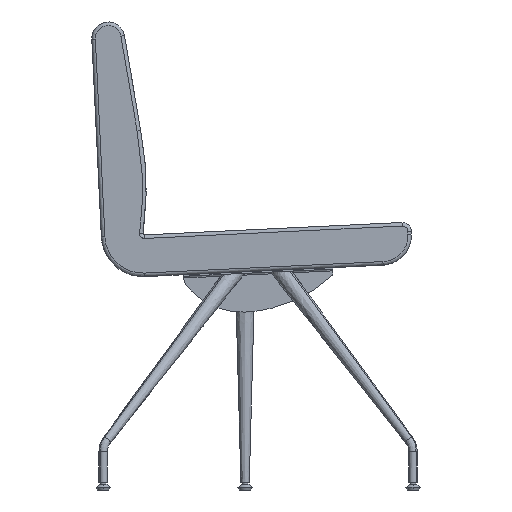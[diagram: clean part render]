
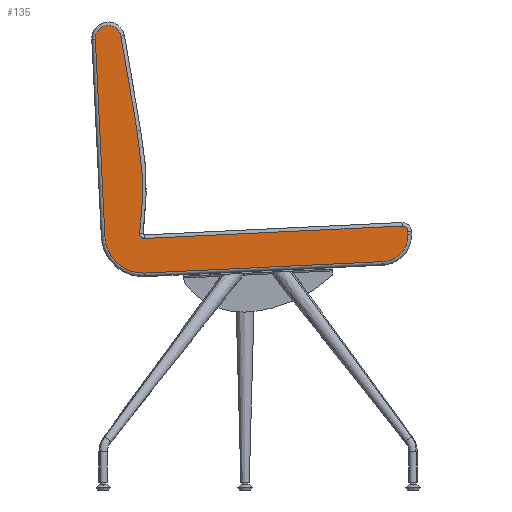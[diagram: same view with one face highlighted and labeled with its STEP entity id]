
A CAD part, left-side view. The second image highlights one B-rep face of the part: STEP entity #135.
In plain terms, the highlighted planar face has unit normal (-1, 0, 0).
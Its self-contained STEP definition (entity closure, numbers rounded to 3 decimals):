
#135=ADVANCED_FACE('',(#415),#3673,.T.);
#415=FACE_OUTER_BOUND('',#697,.T.);
#697=EDGE_LOOP('',(#1191,#1192,#1193,#1194,#1195,#1196,#1197,#1198,#1199,
#1200,#1201));
#1191=ORIENTED_EDGE('',*,*,#2300,.F.);
#1192=ORIENTED_EDGE('',*,*,#2294,.F.);
#1193=ORIENTED_EDGE('',*,*,#2267,.F.);
#1194=ORIENTED_EDGE('',*,*,#2286,.F.);
#1195=ORIENTED_EDGE('',*,*,#2283,.F.);
#1196=ORIENTED_EDGE('',*,*,#2277,.F.);
#1197=ORIENTED_EDGE('',*,*,#2273,.F.);
#1198=ORIENTED_EDGE('',*,*,#2266,.F.);
#1199=ORIENTED_EDGE('',*,*,#2312,.F.);
#1200=ORIENTED_EDGE('',*,*,#2268,.F.);
#1201=ORIENTED_EDGE('',*,*,#2304,.F.);
#2266=EDGE_CURVE('',#3395,#3396,#3952,.T.);
#2267=EDGE_CURVE('',#3390,#3394,#3953,.T.);
#2268=EDGE_CURVE('',#3388,#3397,#3954,.T.);
#2273=EDGE_CURVE('',#3396,#3392,#2883,.T.);
#2277=EDGE_CURVE('',#3392,#3393,#2887,.T.);
#2283=EDGE_CURVE('',#3393,#3389,#2893,.T.);
#2286=EDGE_CURVE('',#3389,#3390,#2896,.T.);
#2294=EDGE_CURVE('',#3394,#3391,#2904,.T.);
#2300=EDGE_CURVE('',#3391,#3387,#2910,.T.);
#2304=EDGE_CURVE('',#3387,#3388,#2914,.T.);
#2312=EDGE_CURVE('',#3397,#3395,#2922,.T.);
#2883=(
BOUNDED_CURVE()
B_SPLINE_CURVE(3,(#6039,#6040,#6041,#6042,#6043,#6044,#6045,#6046,#6047,
#6048,#6049),.UNSPECIFIED.,.F.,.F.)
B_SPLINE_CURVE_WITH_KNOTS((4,1,1,1,1,1,1,1,4),(0.,8.154,
16.307,24.461,32.615,40.769,48.922,
57.076,65.23),.UNSPECIFIED.)
CURVE()
GEOMETRIC_REPRESENTATION_ITEM()
RATIONAL_B_SPLINE_CURVE((1.,1.,1.,1.,1.,1.,1.,1.,
1.,1.,1.))
REPRESENTATION_ITEM('')
);
#2887=(
BOUNDED_CURVE()
B_SPLINE_CURVE(1,(#6066,#6067),.UNSPECIFIED.,.F.,.F.)
B_SPLINE_CURVE_WITH_KNOTS((2,2),(0.,161.419),
 .UNSPECIFIED.)
CURVE()
GEOMETRIC_REPRESENTATION_ITEM()
RATIONAL_B_SPLINE_CURVE((1.,1.))
REPRESENTATION_ITEM('')
);
#2893=(
BOUNDED_CURVE()
B_SPLINE_CURVE(3,(#6081,#6082,#6083,#6084,#6085,#6086,#6087,#6088,#6089),
 .UNSPECIFIED.,.F.,.F.)
B_SPLINE_CURVE_WITH_KNOTS((4,1,1,1,1,1,4),(0.,16.374,
32.749,50.88,69.011,120.524,172.037),
 .UNSPECIFIED.)
CURVE()
GEOMETRIC_REPRESENTATION_ITEM()
RATIONAL_B_SPLINE_CURVE((1.,1.,1.,1.,1.,1.,
1.,1.,1.))
REPRESENTATION_ITEM('')
);
#2896=(
BOUNDED_CURVE()
B_SPLINE_CURVE(3,(#6102,#6103,#6104,#6105,#6106),.UNSPECIFIED.,.F.,.F.)
B_SPLINE_CURVE_WITH_KNOTS((4,1,4),(0.,6.935,
13.869),.UNSPECIFIED.)
CURVE()
GEOMETRIC_REPRESENTATION_ITEM()
RATIONAL_B_SPLINE_CURVE((1.,1.,1.,1.,1.))
REPRESENTATION_ITEM('')
);
#2904=(
BOUNDED_CURVE()
B_SPLINE_CURVE(3,(#6128,#6129,#6130,#6131,#6132),.UNSPECIFIED.,.F.,.F.)
B_SPLINE_CURVE_WITH_KNOTS((4,1,4),(0.,7.068,
14.137),.UNSPECIFIED.)
CURVE()
GEOMETRIC_REPRESENTATION_ITEM()
RATIONAL_B_SPLINE_CURVE((1.,1.,1.,1.,1.))
REPRESENTATION_ITEM('')
);
#2910=(
BOUNDED_CURVE()
B_SPLINE_CURVE(1,(#6149,#6150),.UNSPECIFIED.,.F.,.F.)
B_SPLINE_CURVE_WITH_KNOTS((2,2),(0.,5.),
 .UNSPECIFIED.)
CURVE()
GEOMETRIC_REPRESENTATION_ITEM()
RATIONAL_B_SPLINE_CURVE((1.,1.))
REPRESENTATION_ITEM('')
);
#2914=(
BOUNDED_CURVE()
B_SPLINE_CURVE(3,(#6158,#6159,#6160,#6161,#6162,#6163,#6164),
 .UNSPECIFIED.,.F.,.F.)
B_SPLINE_CURVE_WITH_KNOTS((4,1,1,1,4),(0.,16.586,
34.557,52.527,69.113),.UNSPECIFIED.)
CURVE()
GEOMETRIC_REPRESENTATION_ITEM()
RATIONAL_B_SPLINE_CURVE((1.,1.,1.,1.,1.,1.,1.))
REPRESENTATION_ITEM('')
);
#2922=(
BOUNDED_CURVE()
B_SPLINE_CURVE(3,(#6188,#6189,#6190,#6191,#6192,#6193,#6194),
 .UNSPECIFIED.,.F.,.F.)
B_SPLINE_CURVE_WITH_KNOTS((4,1,1,1,4),(0.,24.125,50.264,
76.404,100.528),.UNSPECIFIED.)
CURVE()
GEOMETRIC_REPRESENTATION_ITEM()
RATIONAL_B_SPLINE_CURVE((1.,1.,1.,1.,1.,1.,1.))
REPRESENTATION_ITEM('')
);
#3387=VERTEX_POINT('',#5920);
#3388=VERTEX_POINT('',#5921);
#3389=VERTEX_POINT('',#5922);
#3390=VERTEX_POINT('',#5923);
#3391=VERTEX_POINT('',#5924);
#3392=VERTEX_POINT('',#5925);
#3393=VERTEX_POINT('',#5926);
#3394=VERTEX_POINT('',#5927);
#3395=VERTEX_POINT('',#5928);
#3396=VERTEX_POINT('',#5929);
#3397=VERTEX_POINT('',#5930);
#3673=PLANE('',#4122);
#3952=B_SPLINE_CURVE_WITH_KNOTS('',1,(#6024,#6025),.UNSPECIFIED.,.F.,.F.,
(2,2),(0.,332.138),.UNSPECIFIED.);
#3953=B_SPLINE_CURVE_WITH_KNOTS('',1,(#6026,#6027),.UNSPECIFIED.,.F.,.F.,
(2,2),(0.,432.642),.UNSPECIFIED.);
#3954=B_SPLINE_CURVE_WITH_KNOTS('',1,(#6028,#6029),.UNSPECIFIED.,.F.,.F.,
(2,2),(0.,400.),.UNSPECIFIED.);
#4122=AXIS2_PLACEMENT_3D('',#5572,#4169,$);
#4169=DIRECTION('',(-1.,0.,0.));
#5572=CARTESIAN_POINT('',(-1020.,347.841,834.398));
#5920=CARTESIAN_POINT('',(-1020.,-251.306,429.248));
#5921=CARTESIAN_POINT('',(-1020.,-209.47,383.186));
#5922=CARTESIAN_POINT('',(-1020.,198.83,430.931));
#5923=CARTESIAN_POINT('',(-1020.,190.499,422.024));
#5924=CARTESIAN_POINT('',(-1020.,-251.066,434.242));
#5925=CARTESIAN_POINT('',(-1020.,230.153,761.269));
#5926=CARTESIAN_POINT('',(-1020.,202.898,602.168));
#5927=CARTESIAN_POINT('',(-1020.,-241.644,442.8));
#5928=CARTESIAN_POINT('',(-1020.,257.068,424.83));
#5929=CARTESIAN_POINT('',(-1020.,273.018,756.585));
#5930=CARTESIAN_POINT('',(-1020.,190.069,363.977));
#6024=CARTESIAN_POINT('',(-1020.,257.068,424.83));
#6025=CARTESIAN_POINT('',(-1020.,273.018,756.585));
#6026=CARTESIAN_POINT('',(-1020.,190.499,422.024));
#6027=CARTESIAN_POINT('',(-1020.,-241.644,442.8));
#6028=CARTESIAN_POINT('',(-1020.,-209.47,383.186));
#6029=CARTESIAN_POINT('',(-1020.,190.069,363.977));
#6039=CARTESIAN_POINT('',(-1020.,273.018,756.585));
#6040=CARTESIAN_POINT('',(-1020.,273.15,759.299));
#6041=CARTESIAN_POINT('',(-1020.,272.373,764.778));
#6042=CARTESIAN_POINT('',(-1020.,268.262,771.989));
#6043=CARTESIAN_POINT('',(-1020.,261.782,777.177));
#6044=CARTESIAN_POINT('',(-1020.,253.846,779.611));
#6045=CARTESIAN_POINT('',(-1020.,245.572,778.948));
#6046=CARTESIAN_POINT('',(-1020.,238.124,775.283));
#6047=CARTESIAN_POINT('',(-1020.,232.553,769.13));
#6048=CARTESIAN_POINT('',(-1020.,230.611,763.948));
#6049=CARTESIAN_POINT('',(-1020.,230.153,761.269));
#6066=CARTESIAN_POINT('',(-1020.,230.153,761.269));
#6067=CARTESIAN_POINT('',(-1020.,202.898,602.168));
#6081=CARTESIAN_POINT('',(-1020.,202.898,602.168));
#6082=CARTESIAN_POINT('',(-1020.,201.977,596.788));
#6083=CARTESIAN_POINT('',(-1020.,200.133,586.028));
#6084=CARTESIAN_POINT('',(-1020.,197.577,569.261));
#6085=CARTESIAN_POINT('',(-1020.,195.528,551.833));
#6086=CARTESIAN_POINT('',(-1020.,193.369,522.641));
#6087=CARTESIAN_POINT('',(-1020.,193.753,482.205));
#6088=CARTESIAN_POINT('',(-1020.,196.87,447.99));
#6089=CARTESIAN_POINT('',(-1020.,198.83,430.931));
#6102=CARTESIAN_POINT('',(-1020.,198.83,430.931));
#6103=CARTESIAN_POINT('',(-1020.,199.117,428.633));
#6104=CARTESIAN_POINT('',(-1020.,197.492,423.833));
#6105=CARTESIAN_POINT('',(-1020.,192.811,421.89));
#6106=CARTESIAN_POINT('',(-1020.,190.499,422.024));
#6128=CARTESIAN_POINT('',(-1020.,-241.644,442.8));
#6129=CARTESIAN_POINT('',(-1020.,-243.999,442.929));
#6130=CARTESIAN_POINT('',(-1020.,-248.774,441.184));
#6131=CARTESIAN_POINT('',(-1020.,-250.969,436.599));
#6132=CARTESIAN_POINT('',(-1020.,-251.066,434.242));
#6149=CARTESIAN_POINT('',(-1020.,-251.066,434.242));
#6150=CARTESIAN_POINT('',(-1020.,-251.306,429.248));
#6158=CARTESIAN_POINT('',(-1020.,-251.306,429.248));
#6159=CARTESIAN_POINT('',(-1020.,-251.573,423.726));
#6160=CARTESIAN_POINT('',(-1020.,-249.932,412.116));
#6161=CARTESIAN_POINT('',(-1020.,-240.848,396.716));
#6162=CARTESIAN_POINT('',(-1020.,-226.391,386.197));
#6163=CARTESIAN_POINT('',(-1020.,-214.992,383.449));
#6164=CARTESIAN_POINT('',(-1020.,-209.47,383.186));
#6188=CARTESIAN_POINT('',(-1020.,190.069,363.977));
#6189=CARTESIAN_POINT('',(-1020.,198.101,363.588));
#6190=CARTESIAN_POINT('',(-1020.,214.989,365.975));
#6191=CARTESIAN_POINT('',(-1020.,237.388,379.188));
#6192=CARTESIAN_POINT('',(-1020.,252.689,400.217));
#6193=CARTESIAN_POINT('',(-1020.,256.685,416.798));
#6194=CARTESIAN_POINT('',(-1020.,257.068,424.83));
